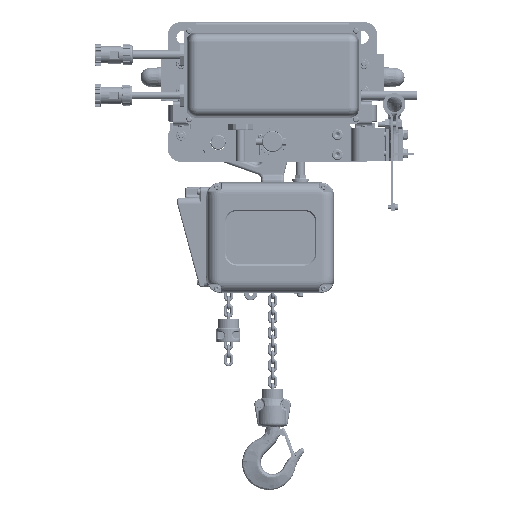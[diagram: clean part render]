
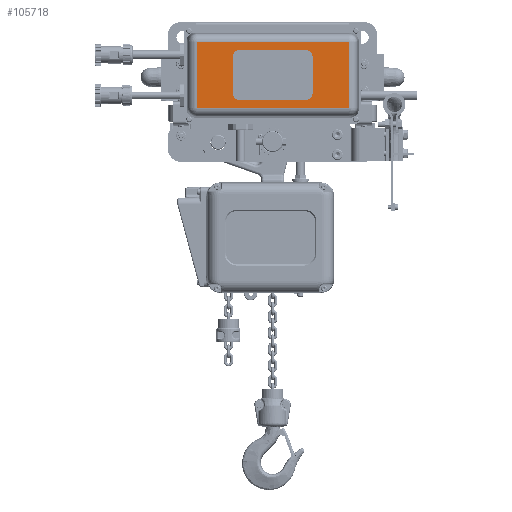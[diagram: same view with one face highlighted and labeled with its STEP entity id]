
A CAD part, top view. The second image highlights one B-rep face of the part: STEP entity #105718.
In plain terms, the highlighted planar face has unit normal (0, 0, 1) as drawn and (-1, 0, 0) by its records, which use the part's own axes.
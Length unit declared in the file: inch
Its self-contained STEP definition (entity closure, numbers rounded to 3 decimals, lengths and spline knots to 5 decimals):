
#7847 = ORIENTED_EDGE ( 'NONE', *, *, #67444, .T. ) ;
#10783 = CARTESIAN_POINT ( 'NONE',  ( -2.71654, 4.84533, 9.75453 ) ) ;
#11834 = EDGE_LOOP ( 'NONE', ( #305778, #310613, #7847, #321818 ) ) ;
#20079 = EDGE_CURVE ( 'NONE', #28561, #25691, #294982, .T. ) ;
#25691 = VERTEX_POINT ( 'NONE', #10783 ) ;
#26212 = DIRECTION ( 'NONE',  ( -1., 0., 0. ) ) ;
#28561 = VERTEX_POINT ( 'NONE', #141227 ) ;
#48836 = CARTESIAN_POINT ( 'NONE',  ( -2.71654, 0.98144, 0.73446 ) ) ;
#58754 = LINE ( 'NONE', #272485, #215969 ) ;
#61152 = FACE_OUTER_BOUND ( 'NONE', #11834, .T. ) ;
#67444 = EDGE_CURVE ( 'NONE', #25691, #236267, #178105, .T. ) ;
#76795 = CARTESIAN_POINT ( 'NONE',  ( -2.71654, 4.84533, 0.73446 ) ) ;
#79969 = VECTOR ( 'NONE', #206150, 39.37008 ) ;
#87697 = DIRECTION ( 'NONE',  ( 0., 0., 1. ) ) ;
#97155 = EDGE_CURVE ( 'NONE', #236267, #338345, #58754, .T. ) ;
#99312 = CARTESIAN_POINT ( 'NONE',  ( -2.71654, 4.84533, 10.47244 ) ) ;
#105718 = ADVANCED_FACE ( 'NONE', ( #61152 ), #168008, .T. ) ;
#105869 = CARTESIAN_POINT ( 'NONE',  ( -2.71654, 5.33958, 9.75453 ) ) ;
#133068 = AXIS2_PLACEMENT_3D ( 'NONE', #215491, #26212, #87697 ) ;
#141227 = CARTESIAN_POINT ( 'NONE',  ( -2.71654, 0.98144, 9.75453 ) ) ;
#168008 = PLANE ( 'NONE',  #133068 ) ;
#178105 = LINE ( 'NONE', #99312, #79969 ) ;
#184621 = DIRECTION ( 'NONE',  ( 0., 1., 0. ) ) ;
#206150 = DIRECTION ( 'NONE',  ( 0., 0., -1. ) ) ;
#215491 = CARTESIAN_POINT ( 'NONE',  ( -2.71654, -2.25031, 10.47244 ) ) ;
#215969 = VECTOR ( 'NONE', #277658, 39.37008 ) ;
#232664 = VECTOR ( 'NONE', #330512, 39.37008 ) ;
#236267 = VERTEX_POINT ( 'NONE', #76795 ) ;
#272485 = CARTESIAN_POINT ( 'NONE',  ( -2.71654, -2.25031, 0.73446 ) ) ;
#276174 = CARTESIAN_POINT ( 'NONE',  ( -2.71654, 0.98144, 10.47244 ) ) ;
#277658 = DIRECTION ( 'NONE',  ( 0., -1., 0. ) ) ;
#288421 = EDGE_CURVE ( 'NONE', #338345, #28561, #307657, .T. ) ;
#294982 = LINE ( 'NONE', #105869, #342714 ) ;
#305778 = ORIENTED_EDGE ( 'NONE', *, *, #288421, .T. ) ;
#307657 = LINE ( 'NONE', #276174, #232664 ) ;
#310613 = ORIENTED_EDGE ( 'NONE', *, *, #20079, .T. ) ;
#321818 = ORIENTED_EDGE ( 'NONE', *, *, #97155, .T. ) ;
#330512 = DIRECTION ( 'NONE',  ( 0., 0., 1. ) ) ;
#338345 = VERTEX_POINT ( 'NONE', #48836 ) ;
#342714 = VECTOR ( 'NONE', #184621, 39.37008 ) ;
